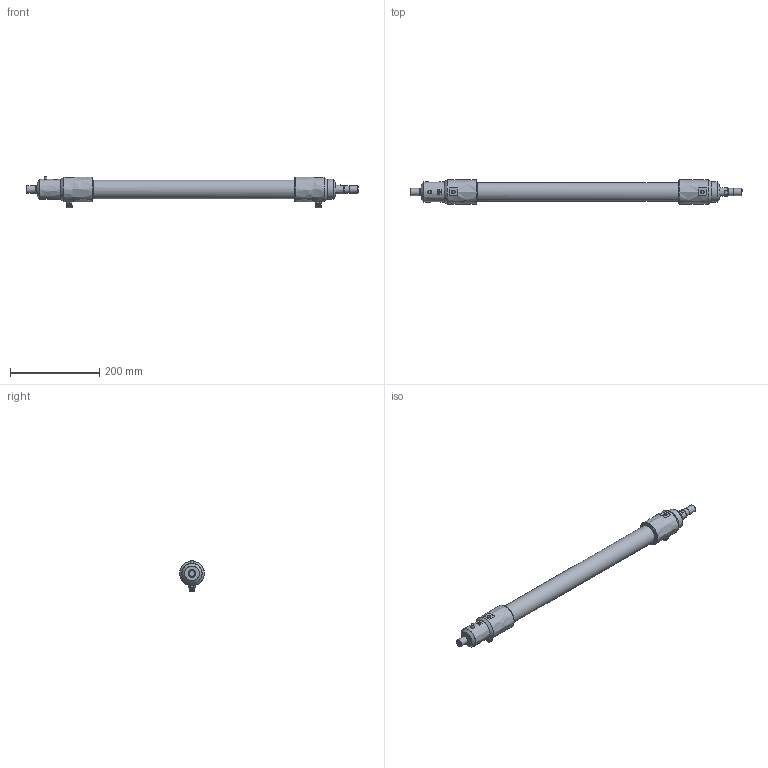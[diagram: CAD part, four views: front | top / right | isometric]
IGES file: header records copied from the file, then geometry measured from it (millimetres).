
Start section: C
Global section: file name: Hydromotor.igs; native system: By Siemens PLM Incorporated; preprocessor: XPlus GENERIC/IGES 16.0.42; author: Author; organization: Title; date: 20140526.104940; units: millimetre
Bounding box: 744 x 55 x 71.5 mm (x, y, z)
Surface area: 305676.3 mm2 (no closed solid volume)
Topology: 0 solids, 0 shells, 289 faces, 1520 edges, 1515 vertices
Faces by surface type: bspline 289
